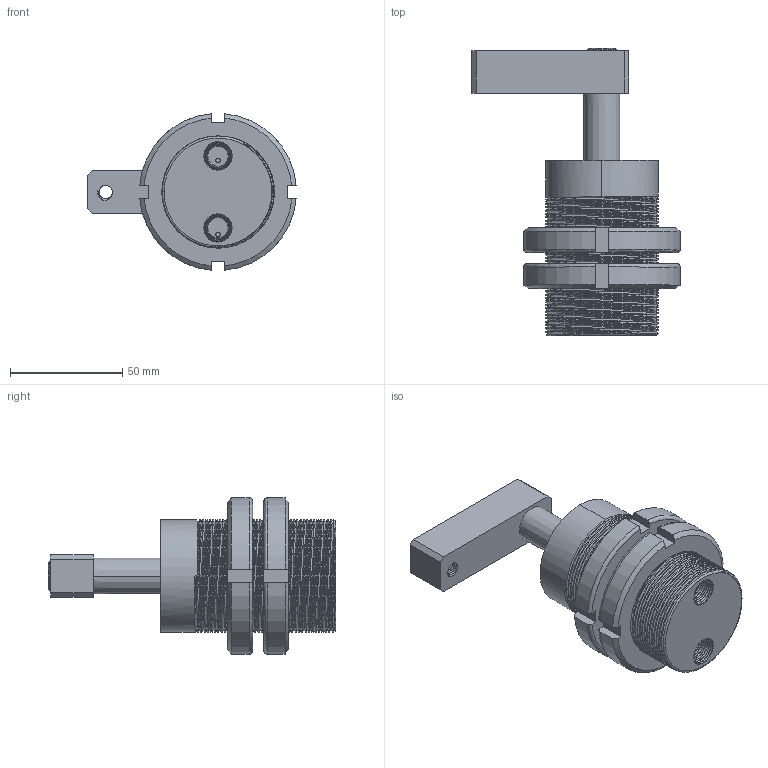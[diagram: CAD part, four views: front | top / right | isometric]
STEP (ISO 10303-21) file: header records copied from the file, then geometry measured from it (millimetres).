
FILE_DESCRIPTION (( 'STEP AP203' ), '1' );
FILE_NAME ('cas-tb32s_asm.STEP', '2013-09-16T08:08:01', ( '微软用户' ), ( '微软中国' ), 'SwSTEP 2.0', 'SolidWorks 2012', '' );
FILE_SCHEMA (( 'CONFIG_CONTROL_DESIGN' ));
Products named in the file (7): cas-tb32s_asm; CAS-FA32SYB; M8LC; CAS-TB32SHSG; CAS-TB32QG; CAS-TB32LM; CAS-TB32BT
Assembly tree (7 placements, depth 2):
  cas-tb32s_asm
    CAS-TB32BT
    CAS-TB32LM  x2
    CAS-TB32QG
    CAS-TB32SHSG
    M8LC
    CAS-FA32SYB
Bounding box: 92.87 x 128 x 69.74 mm (x, y, z)
Volume: 191121.6 mm3; surface area: 75900.5 mm2
Topology: 7 solids, 7 shells, 542 faces, 1828 edges, 1306 vertices
Faces by surface type: cylinder 287, bspline 106, plane 80, cone 69
Entity records: 63638 total; most frequent: CARTESIAN_POINT 50662, ORIENTED_EDGE 3294, EDGE_CURVE 1647, DIRECTION 1472, VERTEX_POINT 1185, B_SPLINE_CURVE_WITH_KNOTS 1077, EDGE_LOOP 520, AXIS2_PLACEMENT_3D 505
